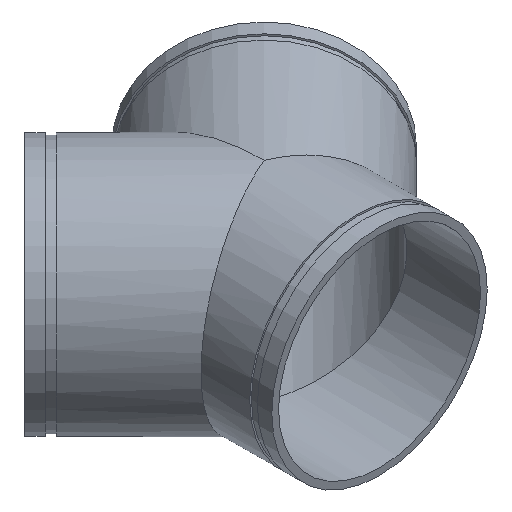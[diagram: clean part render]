
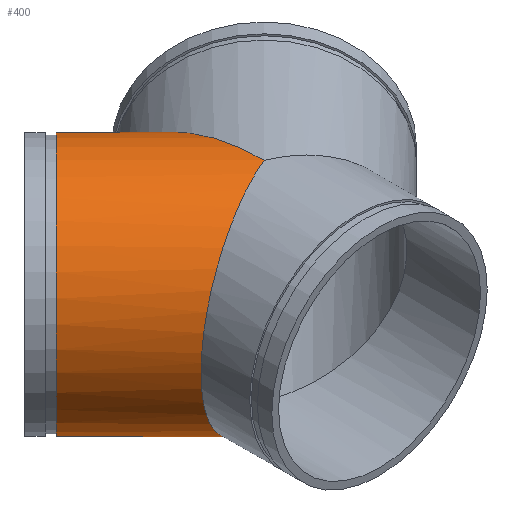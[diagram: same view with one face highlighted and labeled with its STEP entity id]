
A CAD part, isometric view. The second image highlights one B-rep face of the part: STEP entity #400.
In plain terms, the highlighted cylindrical face has radius 177.8 mm (diameter 355.6 mm), a full revolution.
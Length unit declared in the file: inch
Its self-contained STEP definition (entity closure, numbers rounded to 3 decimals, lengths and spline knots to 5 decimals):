
#76=FACE_OUTER_BOUND('',#103,.T.);
#103=EDGE_LOOP('',(#314,#315,#316,#317,#318,#319,#320,#321));
#118=ELLIPSE('',#470,9.89949,7.);
#119=ELLIPSE('',#471,7.57675,7.);
#120=ELLIPSE('',#472,7.57675,7.);
#121=ELLIPSE('',#473,9.89949,7.);
#131=LINE('',#735,#143);
#143=VECTOR('',#595,7.);
#156=CIRCLE('',#446,7.);
#157=CIRCLE('',#447,7.);
#186=VERTEX_POINT('',#686);
#187=VERTEX_POINT('',#687);
#202=VERTEX_POINT('',#730);
#203=VERTEX_POINT('',#731);
#204=VERTEX_POINT('',#733);
#205=VERTEX_POINT('',#736);
#223=EDGE_CURVE('',#186,#187,#156,.T.);
#224=EDGE_CURVE('',#187,#186,#157,.T.);
#243=EDGE_CURVE('',#202,#203,#118,.T.);
#244=EDGE_CURVE('',#204,#202,#119,.T.);
#245=EDGE_CURVE('',#204,#187,#131,.T.);
#246=EDGE_CURVE('',#205,#204,#120,.T.);
#247=EDGE_CURVE('',#203,#205,#121,.T.);
#314=ORIENTED_EDGE('',*,*,#243,.F.);
#315=ORIENTED_EDGE('',*,*,#244,.F.);
#316=ORIENTED_EDGE('',*,*,#245,.T.);
#317=ORIENTED_EDGE('',*,*,#224,.T.);
#318=ORIENTED_EDGE('',*,*,#223,.T.);
#319=ORIENTED_EDGE('',*,*,#245,.F.);
#320=ORIENTED_EDGE('',*,*,#246,.F.);
#321=ORIENTED_EDGE('',*,*,#247,.F.);
#359=CYLINDRICAL_SURFACE('',#469,7.);
#400=ADVANCED_FACE('',(#76),#359,.T.);
#446=AXIS2_PLACEMENT_3D('',#688,#539,#540);
#447=AXIS2_PLACEMENT_3D('',#689,#541,#542);
#469=AXIS2_PLACEMENT_3D('',#729,#589,#590);
#470=AXIS2_PLACEMENT_3D('',#732,#591,#592);
#471=AXIS2_PLACEMENT_3D('',#734,#593,#594);
#472=AXIS2_PLACEMENT_3D('',#737,#596,#597);
#473=AXIS2_PLACEMENT_3D('',#738,#598,#599);
#539=DIRECTION('center_axis',(0.707,-0.707,0.));
#540=DIRECTION('ref_axis',(0.707,0.707,0.));
#541=DIRECTION('center_axis',(0.707,-0.707,0.));
#542=DIRECTION('ref_axis',(0.707,0.707,0.));
#589=DIRECTION('center_axis',(0.707,-0.707,0.));
#590=DIRECTION('ref_axis',(0.707,0.707,0.));
#591=DIRECTION('center_axis',(1.,0.,0.));
#592=DIRECTION('ref_axis',(0.,1.,0.));
#593=DIRECTION('center_axis',(0.383,-0.924,0.));
#594=DIRECTION('ref_axis',(0.924,0.383,0.));
#595=DIRECTION('',(-0.707,0.707,0.));
#596=DIRECTION('center_axis',(0.383,-0.924,0.));
#597=DIRECTION('ref_axis',(0.924,0.383,0.));
#598=DIRECTION('center_axis',(1.,0.,0.));
#599=DIRECTION('ref_axis',(0.,1.,0.));
#686=CARTESIAN_POINT('',(-1.81161,11.7111,0.));
#687=CARTESIAN_POINT('',(-11.7111,1.81161,0.));
#688=CARTESIAN_POINT('Origin',(-6.76136,6.76136,0.));
#689=CARTESIAN_POINT('Origin',(-6.76136,6.76136,0.));
#729=CARTESIAN_POINT('Origin',(-7.77817,7.77817,0.));
#730=CARTESIAN_POINT('',(0.,0.,-7.));
#731=CARTESIAN_POINT('',(0.,9.89949,0.));
#732=CARTESIAN_POINT('Origin',(0.,0.,
0.));
#733=CARTESIAN_POINT('',(-7.,-2.89949,0.));
#734=CARTESIAN_POINT('Origin',(0.,0.,0.));
#735=CARTESIAN_POINT('',(-12.72792,2.82843,0.));
#736=CARTESIAN_POINT('',(0.,0.,7.));
#737=CARTESIAN_POINT('Origin',(0.,0.,0.));
#738=CARTESIAN_POINT('Origin',(0.,0.,
0.));
